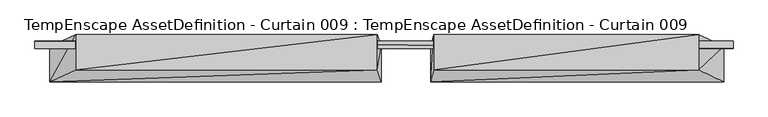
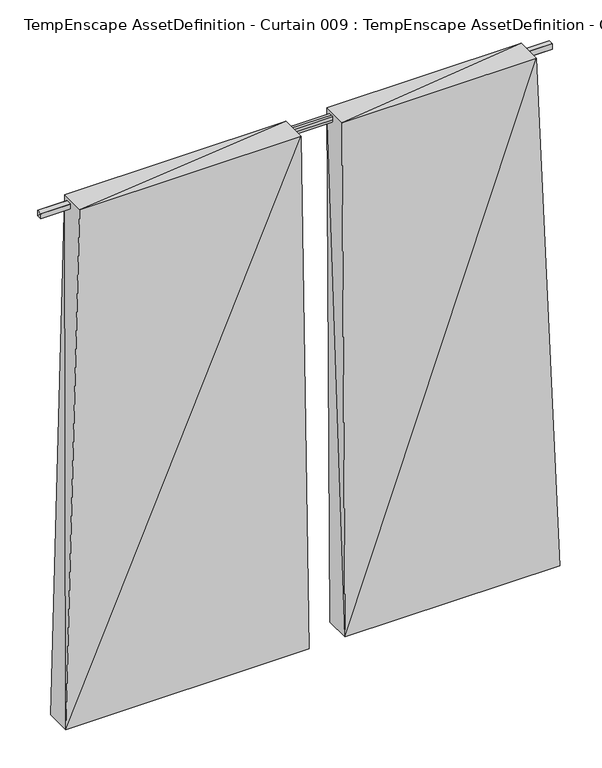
"""IFC4 building model written with IfcOpenShell, lengths in millimetres: geographic element geometry, TempEnscape AssetDefinition - Curtain 009 : TempEnscape AssetDefinition - Curtain 009."""

import ifcopenshell
import ifcopenshell.guid

model = None  # the IFC model being written
_history = None  # IfcOwnerHistory: only IFC2X3 demands one
_inside = {}  # id of a spatial element -> (the spatial element, [elements in it])
_under = {}  # id of a project, library or spatial element -> (it, [spatial elements below it])
_declared = {}  # id of a project -> (the project, [libraries it declares])
_typed = {}  # id of a type object -> (the type object, [elements of that type])
_made_of = {}  # id of a material, layer set ... -> (it, [elements and type objects made of it])


def new_model(schema):
    """Start an empty IFC model of exactly this schema.

    Asked for "IFC4X3", IfcOpenShell would pick the latest addendum, in which some entities
    have other attributes; the version numbers below select the first issue.
    IFC2X3 requires an IfcOwnerHistory on every rooted entity: one is made here for all.
    """
    global model, _history
    if schema == "IFC4X3":
        model = ifcopenshell.file(schema_version=(4, 3, 0, 0))
    else:
        model = ifcopenshell.file(schema=schema)
    _inside.clear()
    _under.clear()
    _declared.clear()
    _typed.clear()
    _made_of.clear()
    _history = None
    if model.schema == "IFC2X3":
        org = make("IfcOrganization", Name="unknown")
        user = make(
            "IfcPersonAndOrganization",
            ThePerson=make("IfcPerson", FamilyName="unknown"),
            TheOrganization=org,
        )
        app = make(
            "IfcApplication",
            ApplicationDeveloper=org,
            Version="unknown",
            ApplicationFullName="unknown",
            ApplicationIdentifier="unknown",
        )
        _history = make(
            "IfcOwnerHistory",
            OwningUser=user,
            OwningApplication=app,
            ChangeAction="ADDED",
            CreationDate=0,
        )
    return model


def make(cls, **values):
    """One entity of the class cls with the attributes given. An attribute that is None is left unset."""
    return model.create_entity(
        cls, **{name: value for name, value in values.items() if value is not None}
    )


def rooted(cls, **values):
    """An entity with a GlobalId (a new one), such as an element, a storey or a relation."""
    return make(cls, GlobalId=ifcopenshell.guid.new(), OwnerHistory=_history, **values)


def si_unit(unit_type, name, prefix=None):
    """IfcSIUnit, for example si_unit("LENGTHUNIT", "METRE", prefix="MILLI")."""
    return make("IfcSIUnit", UnitType=unit_type, Prefix=prefix, Name=name)


def assignment(units):
    """IfcUnitAssignment: the units of a project."""
    return None if units is None else make("IfcUnitAssignment", Units=units)


def point(xyz):
    """IfcCartesianPoint."""
    return None if xyz is None else make("IfcCartesianPoint", Coordinates=xyz)


def direction(xyz):
    """IfcDirection."""
    return None if xyz is None else make("IfcDirection", DirectionRatios=xyz)


def frame(location, z_axis=None, x_axis=None):
    """IfcAxis2Placement3D, a coordinate frame: its origin and axes. An axis left out is left unset."""
    return make(
        "IfcAxis2Placement3D",
        Location=point(location),
        Axis=direction(z_axis),
        RefDirection=direction(x_axis),
    )


def origin():
    """The frame at (0, 0, 0) with its axes left unset."""
    return frame((0.0, 0.0, 0.0))


def place(relative_to, where):
    """IfcLocalPlacement: puts the frame where relative to a parent placement (None: the world)."""
    return make(
        "IfcLocalPlacement", PlacementRelTo=relative_to, RelativePlacement=where
    )


def context(
    kind, dimensions, precision=None, world=None, true_north=None, identifier=None
):
    """IfcGeometricRepresentationContext, for example the 3D "Model" context."""
    return make(
        "IfcGeometricRepresentationContext",
        ContextIdentifier=identifier,
        ContextType=kind,
        CoordinateSpaceDimension=dimensions,
        Precision=precision,
        WorldCoordinateSystem=world,
        TrueNorth=true_north,
    )


def project(units=None, contexts=None):
    """IfcProject with its units and contexts."""
    return rooted(
        "IfcProject",
        Name="project",
        RepresentationContexts=contexts,
        UnitsInContext=assignment(units),
    )


def spatial(cls, under=None, at=None, **own):
    """A site, building, storey or space (cls), placed at a placement, below another one or the project."""
    s = rooted(cls, ObjectPlacement=at, **own)
    if under is not None:
        _under.setdefault(under.id(), (under, []))[1].append(s)
    return s


def faces_of(points, faces, orient=None, outer=None):
    """IfcFace entities. A face is a list of loops; a loop is a list of indices into points, from 0.

    orient and outer hold one flag for each loop. By default every Orientation is true, the
    first loop of a face is its IfcFaceOuterBound and the others are IfcFaceBound.
    """
    made = []
    for i, loops in enumerate(faces):
        bounds = []
        for j, loop in enumerate(loops):
            is_outer = j == 0 if outer is None else outer[i][j]
            bounds.append(
                make(
                    "IfcFaceOuterBound" if is_outer else "IfcFaceBound",
                    Bound=make("IfcPolyLoop", Polygon=[points[k] for k in loop]),
                    Orientation=True if orient is None else orient[i][j],
                )
            )
        made.append(make("IfcFace", Bounds=bounds))
    return made


def faceted_brep(points, faces, orient=None, outer=None, voids=None):
    """IfcFacetedBrep: a solid bounded by flat faces; with voids (closed shells), ...WithVoids."""
    shared = [point(p) for p in points]
    hull = make("IfcClosedShell", CfsFaces=faces_of(shared, faces, orient, outer))
    if voids is None:
        return make("IfcFacetedBrep", Outer=hull)
    return make(
        "IfcFacetedBrepWithVoids",
        Outer=hull,
        Voids=[
            make(cls, CfsFaces=faces_of(shared, fs, o, b)) for cls, fs, o, b in voids
        ],
    )


def shape(context_of_items, identifier, shape_type, items):
    """IfcShapeRepresentation: the items that make up one representation, for example the "Body"."""
    return make(
        "IfcShapeRepresentation",
        ContextOfItems=context_of_items,
        RepresentationIdentifier=identifier,
        RepresentationType=shape_type,
        Items=items,
    )


def source(mapping_origin, context_of_items, identifier, shape_type, items):
    """IfcRepresentationMap: a shape defined once, which mapped items show again and again."""
    return make(
        "IfcRepresentationMap",
        MappingOrigin=mapping_origin,
        MappedRepresentation=shape(context_of_items, identifier, shape_type, items),
    )


def transform(
    local_origin,
    x_axis=None,
    y_axis=None,
    z_axis=None,
    scale=None,
    scale2=None,
    scale3=None,
    uniform=True,
):
    """IfcCartesianTransformationOperator3D, or its non-uniform kind. x_axis, y_axis, z_axis: its Axis1, 2, 3."""
    if uniform:
        return make(
            "IfcCartesianTransformationOperator3D",
            Axis1=direction(x_axis),
            Axis2=direction(y_axis),
            LocalOrigin=point(local_origin),
            Scale=scale,
            Axis3=direction(z_axis),
        )
    return make(
        "IfcCartesianTransformationOperator3DnonUniform",
        Axis1=direction(x_axis),
        Axis2=direction(y_axis),
        LocalOrigin=point(local_origin),
        Scale=scale,
        Axis3=direction(z_axis),
        Scale2=scale2,
        Scale3=scale3,
    )


def mapped(mapping_source, mapping_target):
    """IfcMappedItem: shows the shape of a source again, moved by a transform."""
    return make(
        "IfcMappedItem", MappingSource=mapping_source, MappingTarget=mapping_target
    )


def made_of(thing, what):
    """Note that an element or type object is made of a material, layer set ...; save() writes the relation."""
    if what is not None:
        _made_of.setdefault(what.id(), (what, []))[1].append(thing)
    return thing


def element(
    cls,
    number,
    at=None,
    inside=None,
    cuts=None,
    type_object=None,
    material=None,
    context=None,
    identifier="Body",
    shape_type=None,
    held_by="IfcProductDefinitionShape",
    body=None,
    shapes=None,
    **own,
):
    """One element of the class cls, such as IfcWall. Its Tag is "e" and its number.

    at: its placement. inside: the storey or other place that contains it. cuts: it is an
    opening in that element (IfcRelVoidsElement). A single representation is given by context,
    identifier, shape_type and body (its items); several are given by shapes. held_by: the class
    of the entity that holds the representations. save() writes the other relations.
    """
    e = rooted(cls, Tag="e%d" % number, ObjectPlacement=at, **own)
    if body is not None:
        shapes = [shape(context, identifier, shape_type, body)]
    if shapes is not None:
        e.Representation = make(held_by, Representations=shapes)
    if inside is not None:
        _inside.setdefault(inside.id(), (inside, []))[1].append(e)
    if cuts is not None:
        rooted(
            "IfcRelVoidsElement", RelatingBuildingElement=cuts, RelatedOpeningElement=e
        )
    if type_object is not None:
        _typed.setdefault(type_object.id(), (type_object, []))[1].append(e)
    return made_of(e, material)


def aggregate(whole, parts):
    """IfcRelAggregates: a whole, such as a stair, and the parts it consists of."""
    return rooted("IfcRelAggregates", RelatingObject=whole, RelatedObjects=parts)


def save(model, path):
    """Write the relations noted so far, then the file.

    IfcRelAggregates (storeys below a building ...), IfcRelContainedInSpatialStructure (elements
    in a storey), IfcRelDefinesByType, IfcRelAssociatesMaterial and IfcRelDeclares: one each for
    every whole, place, type object, material and project.
    """
    for whole, parts in _under.values():
        aggregate(whole, parts)
    for where, things in _inside.values():
        rooted(
            "IfcRelContainedInSpatialStructure",
            RelatedElements=things,
            RelatingStructure=where,
        )
    for kind, things in _typed.values():
        rooted("IfcRelDefinesByType", RelatedObjects=things, RelatingType=kind)
    for what, things in _made_of.values():
        rooted("IfcRelAssociatesMaterial", RelatedObjects=things, RelatingMaterial=what)
    for by, libraries in _declared.values():
        rooted("IfcRelDeclares", RelatingContext=by, RelatedDefinitions=libraries)
    model.write(path)


def tempenscape_assetdefinition_curtain_009_tempenscape_1b6ab596(model_context):
    return source(origin(), model_context, "Body", "Brep", [
        faceted_brep([(1379.3033243, -64.9169995, 2851.6351723), (1379.3033243, -34.9583772, 2851.6351723), (1379.3033243, -64.9169995, 2881.5938125), (-1382.6550133, -34.9583749, 2851.6348848), (-1382.6550133, -64.916995, 2851.6348848), (1379.3033243, -34.9583794, 2881.5938125), (-1382.6550133, -64.9169995, 2881.5938125), (-1382.6550133, -34.9583749, 2881.5938125)], [[[0, 1, 2]], [[3, 1, 4]], [[2, 1, 5]], [[4, 1, 0]], [[3, 5, 1]], [[6, 2, 7]], [[6, 0, 2]], [[7, 2, 5]], [[4, 0, 6]], [[6, 3, 4]], [[7, 3, 6]], [[7, 5, 3]]]),
        faceted_brep([(1242.8803679, -150.2301036, 2900.0), (183.3684696, -197.3893377, 0.0), (1342.1554498, -197.3893377, 0.000184), (183.3683977, -57.7353433, 0.0), (194.2856977, -10.5761788, 2899.9997125), (194.2856797, -150.2301036, 2899.9997125), (1342.1554498, -57.7353343, 0.000184), (1242.8805116, -10.5761642, 2900.0)], [[[0, 1, 2]], [[3, 2, 1]], [[4, 1, 5]], [[1, 0, 5]], [[1, 4, 3]], [[6, 0, 2]], [[2, 3, 6]], [[7, 5, 0]], [[0, 6, 7]], [[5, 7, 4]], [[7, 3, 4]], [[3, 7, 6]]]),
        faceted_brep([(-27.4700063, -150.2301036, 2899.9997125), (-1324.275367, -197.3893377, -0.000184), (-11.8742618, -197.3893377, 0.0), (-1324.275367, -57.7353343, -0.000184), (-1221.7913342, -10.5761675, 2899.9997125), (-1221.7913342, -150.2301036, 2899.999425), (-11.8744235, -57.7353253, 0.0), (-27.4698918, -10.5761642, 2899.9997125)], [[[0, 1, 2]], [[3, 2, 1]], [[4, 1, 5]], [[1, 0, 5]], [[1, 4, 3]], [[6, 0, 2]], [[2, 3, 6]], [[7, 5, 0]], [[0, 6, 7]], [[5, 7, 4]], [[7, 3, 4]], [[3, 7, 6]]]),
    ])


if __name__ == "__main__":
    model = new_model("IFC4")
    model_context = context("Model", 3, world=origin())
    ifc_project = project(units=[si_unit("LENGTHUNIT", "METRE", prefix="MILLI")], contexts=[model_context])
    site = spatial("IfcSite", under=ifc_project)
    building = spatial("IfcBuilding", under=site)
    placement = place(None, origin())
    tempenscape_assetdefinition_curtain_009_tempenscape_shape = tempenscape_assetdefinition_curtain_009_tempenscape_1b6ab596(model_context)
    element("IfcGeographicElement", 1, ObjectType="TempEnscape AssetDefinition - Curtain 009 : TempEnscape AssetDefinition - Curtain 009", at=placement, inside=building, context=model_context, shape_type="MappedRepresentation", body=[
        mapped(tempenscape_assetdefinition_curtain_009_tempenscape_shape, transform((0.0, 0.0, 0.0), x_axis=(1.0, 0.0, 0.0), y_axis=(0.0, 1.0, 0.0), z_axis=(0.0, 0.0, 1.0))),
    ])
    save(model, "model.ifc")
